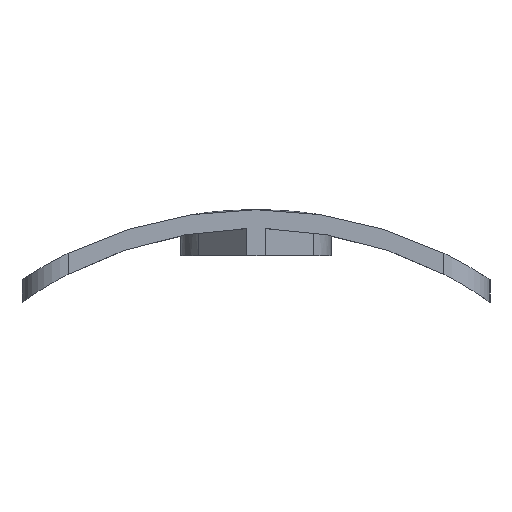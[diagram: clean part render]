
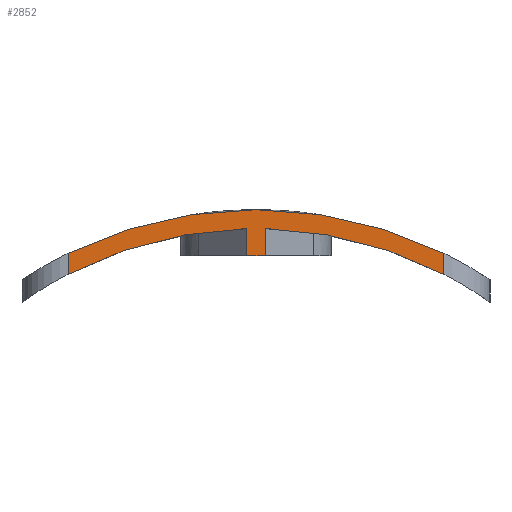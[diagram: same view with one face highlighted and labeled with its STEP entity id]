
A CAD part, left-side view. The second image highlights one B-rep face of the part: STEP entity #2852.
In plain terms, the highlighted planar face has unit normal (-1, 0, 0).
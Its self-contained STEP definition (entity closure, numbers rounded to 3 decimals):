
#22 = VERTEX_POINT('',#23);
#23 = CARTESIAN_POINT('',(96.3,11.,22.45));
#43 = CYLINDRICAL_SURFACE('',#44,25.);
#44 = AXIS2_PLACEMENT_3D('',#45,#46,#47);
#45 = CARTESIAN_POINT('',(95.,0.,0.));
#46 = DIRECTION('',(1.,0.,0.));
#47 = DIRECTION('',(-0.,0.,1.));
#66 = CYLINDRICAL_SURFACE('',#67,2.7);
#67 = AXIS2_PLACEMENT_3D('',#68,#69,#70);
#68 = CARTESIAN_POINT('',(99.,11.,5.));
#69 = DIRECTION('',(0.,0.,1.));
#70 = DIRECTION('',(-1.,-0.,0.));
#89 = EDGE_CURVE('',#22,#90,#92,.T.);
#90 = VERTEX_POINT('',#91);
#91 = CARTESIAN_POINT('',(96.3,-11.,22.45));
#92 = SURFACE_CURVE('',#93,(#98,#105),.PCURVE_S1.);
#93 = CIRCLE('',#94,25.);
#94 = AXIS2_PLACEMENT_3D('',#95,#96,#97);
#95 = CARTESIAN_POINT('',(96.3,0.,0.));
#96 = DIRECTION('',(1.,0.,0.));
#97 = DIRECTION('',(-0.,0.44,0.898));
#98 = PCURVE('',#43,#99);
#99 = DEFINITIONAL_REPRESENTATION('',(#100),#104);
#100 = LINE('',#101,#102);
#101 = CARTESIAN_POINT('',(5.828,1.3));
#102 = VECTOR('',#103,1.);
#103 = DIRECTION('',(1.,0.));
#104 = ( GEOMETRIC_REPRESENTATION_CONTEXT(2) 
PARAMETRIC_REPRESENTATION_CONTEXT() REPRESENTATION_CONTEXT('2D SPACE',''
  ) );
#105 = PCURVE('',#106,#111);
#106 = PLANE('',#107);
#107 = AXIS2_PLACEMENT_3D('',#108,#109,#110);
#108 = CARTESIAN_POINT('',(96.3,-13.7,5.));
#109 = DIRECTION('',(1.,0.,0.));
#110 = DIRECTION('',(0.,0.,1.));
#111 = DEFINITIONAL_REPRESENTATION('',(#112),#116);
#112 = CIRCLE('',#113,25.);
#113 = AXIS2_PLACEMENT_2D('',#114,#115);
#114 = CARTESIAN_POINT('',(-5.,-13.7));
#115 = DIRECTION('',(0.898,-0.44));
#116 = ( GEOMETRIC_REPRESENTATION_CONTEXT(2) 
PARAMETRIC_REPRESENTATION_CONTEXT() REPRESENTATION_CONTEXT('2D SPACE',''
  ) );
#156 = CYLINDRICAL_SURFACE('',#157,2.7);
#157 = AXIS2_PLACEMENT_3D('',#158,#159,#160);
#158 = CARTESIAN_POINT('',(99.,-11.,5.));
#159 = DIRECTION('',(0.,0.,1.));
#160 = DIRECTION('',(-1.,-0.,0.));
#1158 = PLANE('',#1159);
#1159 = AXIS2_PLACEMENT_3D('',#1160,#1161,#1162);
#1160 = CARTESIAN_POINT('',(102.5,0.,22.3));
#1161 = DIRECTION('',(0.,0.,1.));
#1162 = DIRECTION('',(1.,0.,-0.));
#1206 = VERTEX_POINT('',#1207);
#1207 = CARTESIAN_POINT('',(96.3,0.541,22.3));
#1221 = PLANE('',#1222);
#1222 = AXIS2_PLACEMENT_3D('',#1223,#1224,#1225);
#1223 = CARTESIAN_POINT('',(95.655,0.,22.3));
#1224 = DIRECTION('',(-0.643,0.766,0.));
#1225 = DIRECTION('',(0.766,0.643,0.));
#1233 = EDGE_CURVE('',#1206,#1234,#1236,.T.);
#1234 = VERTEX_POINT('',#1235);
#1235 = CARTESIAN_POINT('',(96.3,-0.541,22.3));
#1236 = SURFACE_CURVE('',#1237,(#1241,#1248),.PCURVE_S1.);
#1237 = LINE('',#1238,#1239);
#1238 = CARTESIAN_POINT('',(96.3,-10.,22.3));
#1239 = VECTOR('',#1240,1.);
#1240 = DIRECTION('',(0.,-1.,0.));
#1241 = PCURVE('',#1158,#1242);
#1242 = DEFINITIONAL_REPRESENTATION('',(#1243),#1247);
#1243 = LINE('',#1244,#1245);
#1244 = CARTESIAN_POINT('',(-6.2,-10.));
#1245 = VECTOR('',#1246,1.);
#1246 = DIRECTION('',(0.,-1.));
#1247 = ( GEOMETRIC_REPRESENTATION_CONTEXT(2) 
PARAMETRIC_REPRESENTATION_CONTEXT() REPRESENTATION_CONTEXT('2D SPACE',''
  ) );
#1248 = PCURVE('',#106,#1249);
#1249 = DEFINITIONAL_REPRESENTATION('',(#1250),#1254);
#1250 = LINE('',#1251,#1252);
#1251 = CARTESIAN_POINT('',(17.3,-3.7));
#1252 = VECTOR('',#1253,1.);
#1253 = DIRECTION('',(0.,1.));
#1254 = ( GEOMETRIC_REPRESENTATION_CONTEXT(2) 
PARAMETRIC_REPRESENTATION_CONTEXT() REPRESENTATION_CONTEXT('2D SPACE',''
  ) );
#1270 = PLANE('',#1271);
#1271 = AXIS2_PLACEMENT_3D('',#1272,#1273,#1274);
#1272 = CARTESIAN_POINT('',(99.672,-3.371,22.3));
#1273 = DIRECTION('',(-0.643,-0.766,0.));
#1274 = DIRECTION('',(-0.766,0.643,0.));
#1312 = VERTEX_POINT('',#1313);
#1313 = CARTESIAN_POINT('',(96.3,-0.541,23.894));
#1328 = CYLINDRICAL_SURFACE('',#1329,23.9);
#1329 = AXIS2_PLACEMENT_3D('',#1330,#1331,#1332);
#1330 = CARTESIAN_POINT('',(94.,0.,0.));
#1331 = DIRECTION('',(1.,0.,0.));
#1332 = DIRECTION('',(-0.,0.,1.));
#1343 = EDGE_CURVE('',#1234,#1312,#1344,.T.);
#1344 = SURFACE_CURVE('',#1345,(#1349,#1355),.PCURVE_S1.);
#1345 = LINE('',#1346,#1347);
#1346 = CARTESIAN_POINT('',(96.3,-0.541,11.15));
#1347 = VECTOR('',#1348,1.);
#1348 = DIRECTION('',(0.,0.,1.));
#1349 = PCURVE('',#1270,#1350);
#1350 = DEFINITIONAL_REPRESENTATION('',(#1351),#1354);
#1351 = B_SPLINE_CURVE_WITH_KNOTS('',1,(#1352,#1353),.UNSPECIFIED.,.F.,
  .F.,(2,2),(11.15,13.05),.PIECEWISE_BEZIER_KNOTS.);
#1352 = CARTESIAN_POINT('',(4.401,0.));
#1353 = CARTESIAN_POINT('',(4.401,-1.9));
#1354 = ( GEOMETRIC_REPRESENTATION_CONTEXT(2) 
PARAMETRIC_REPRESENTATION_CONTEXT() REPRESENTATION_CONTEXT('2D SPACE',''
  ) );
#1355 = PCURVE('',#106,#1356);
#1356 = DEFINITIONAL_REPRESENTATION('',(#1357),#1361);
#1357 = LINE('',#1358,#1359);
#1358 = CARTESIAN_POINT('',(6.15,-13.159));
#1359 = VECTOR('',#1360,1.);
#1360 = DIRECTION('',(1.,0.));
#1361 = ( GEOMETRIC_REPRESENTATION_CONTEXT(2) 
PARAMETRIC_REPRESENTATION_CONTEXT() REPRESENTATION_CONTEXT('2D SPACE',''
  ) );
#1625 = EDGE_CURVE('',#1312,#1626,#1628,.T.);
#1626 = VERTEX_POINT('',#1627);
#1627 = CARTESIAN_POINT('',(96.3,-11.,21.218));
#1628 = SURFACE_CURVE('',#1629,(#1634,#1640),.PCURVE_S1.);
#1629 = CIRCLE('',#1630,23.9);
#1630 = AXIS2_PLACEMENT_3D('',#1631,#1632,#1633);
#1631 = CARTESIAN_POINT('',(96.3,0.,0.));
#1632 = DIRECTION('',(1.,0.,0.));
#1633 = DIRECTION('',(-0.,0.,1.));
#1634 = PCURVE('',#1328,#1635);
#1635 = DEFINITIONAL_REPRESENTATION('',(#1636),#1639);
#1636 = B_SPLINE_CURVE_WITH_KNOTS('',1,(#1637,#1638),.UNSPECIFIED.,.F.,
  .F.,(2,2),(0.023,0.478),
  .PIECEWISE_BEZIER_KNOTS.);
#1637 = CARTESIAN_POINT('',(6.306,2.3));
#1638 = CARTESIAN_POINT('',(6.761,2.3));
#1639 = ( GEOMETRIC_REPRESENTATION_CONTEXT(2) 
PARAMETRIC_REPRESENTATION_CONTEXT() REPRESENTATION_CONTEXT('2D SPACE',''
  ) );
#1640 = PCURVE('',#106,#1641);
#1641 = DEFINITIONAL_REPRESENTATION('',(#1642),#1646);
#1642 = CIRCLE('',#1643,23.9);
#1643 = AXIS2_PLACEMENT_2D('',#1644,#1645);
#1644 = CARTESIAN_POINT('',(-5.,-13.7));
#1645 = DIRECTION('',(1.,0.));
#1646 = ( GEOMETRIC_REPRESENTATION_CONTEXT(2) 
PARAMETRIC_REPRESENTATION_CONTEXT() REPRESENTATION_CONTEXT('2D SPACE',''
  ) );
#1887 = VERTEX_POINT('',#1888);
#1888 = CARTESIAN_POINT('',(96.3,11.,21.218));
#1942 = EDGE_CURVE('',#1887,#1943,#1945,.T.);
#1943 = VERTEX_POINT('',#1944);
#1944 = CARTESIAN_POINT('',(96.3,0.541,23.894));
#1945 = SURFACE_CURVE('',#1946,(#1951,#1957),.PCURVE_S1.);
#1946 = CIRCLE('',#1947,23.9);
#1947 = AXIS2_PLACEMENT_3D('',#1948,#1949,#1950);
#1948 = CARTESIAN_POINT('',(96.3,0.,0.));
#1949 = DIRECTION('',(1.,0.,0.));
#1950 = DIRECTION('',(-0.,0.,1.));
#1951 = PCURVE('',#1328,#1952);
#1952 = DEFINITIONAL_REPRESENTATION('',(#1953),#1956);
#1953 = B_SPLINE_CURVE_WITH_KNOTS('',1,(#1954,#1955),.UNSPECIFIED.,.F.,
  .F.,(2,2),(5.805,6.261),.PIECEWISE_BEZIER_KNOTS.);
#1954 = CARTESIAN_POINT('',(5.805,2.3));
#1955 = CARTESIAN_POINT('',(6.261,2.3));
#1956 = ( GEOMETRIC_REPRESENTATION_CONTEXT(2) 
PARAMETRIC_REPRESENTATION_CONTEXT() REPRESENTATION_CONTEXT('2D SPACE',''
  ) );
#1957 = PCURVE('',#106,#1958);
#1958 = DEFINITIONAL_REPRESENTATION('',(#1959),#1963);
#1959 = CIRCLE('',#1960,23.9);
#1960 = AXIS2_PLACEMENT_2D('',#1961,#1962);
#1961 = CARTESIAN_POINT('',(-5.,-13.7));
#1962 = DIRECTION('',(1.,0.));
#1963 = ( GEOMETRIC_REPRESENTATION_CONTEXT(2) 
PARAMETRIC_REPRESENTATION_CONTEXT() REPRESENTATION_CONTEXT('2D SPACE',''
  ) );
#2596 = EDGE_CURVE('',#1943,#1206,#2597,.T.);
#2597 = SURFACE_CURVE('',#2598,(#2602,#2608),.PCURVE_S1.);
#2598 = LINE('',#2599,#2600);
#2599 = CARTESIAN_POINT('',(96.3,0.541,11.15));
#2600 = VECTOR('',#2601,1.);
#2601 = DIRECTION('',(-0.,0.,-1.));
#2602 = PCURVE('',#1221,#2603);
#2603 = DEFINITIONAL_REPRESENTATION('',(#2604),#2607);
#2604 = B_SPLINE_CURVE_WITH_KNOTS('',1,(#2605,#2606),.UNSPECIFIED.,.F.,
  .F.,(2,2),(-13.05,-11.15),.PIECEWISE_BEZIER_KNOTS.);
#2605 = CARTESIAN_POINT('',(0.842,-1.9));
#2606 = CARTESIAN_POINT('',(0.842,0.));
#2607 = ( GEOMETRIC_REPRESENTATION_CONTEXT(2) 
PARAMETRIC_REPRESENTATION_CONTEXT() REPRESENTATION_CONTEXT('2D SPACE',''
  ) );
#2608 = PCURVE('',#106,#2609);
#2609 = DEFINITIONAL_REPRESENTATION('',(#2610),#2614);
#2610 = LINE('',#2611,#2612);
#2611 = CARTESIAN_POINT('',(6.15,-14.241));
#2612 = VECTOR('',#2613,1.);
#2613 = DIRECTION('',(-1.,-0.));
#2614 = ( GEOMETRIC_REPRESENTATION_CONTEXT(2) 
PARAMETRIC_REPRESENTATION_CONTEXT() REPRESENTATION_CONTEXT('2D SPACE',''
  ) );
#2829 = EDGE_CURVE('',#1626,#90,#2830,.T.);
#2830 = SURFACE_CURVE('',#2831,(#2835,#2842),.PCURVE_S1.);
#2831 = LINE('',#2832,#2833);
#2832 = CARTESIAN_POINT('',(96.3,-11.,5.));
#2833 = VECTOR('',#2834,1.);
#2834 = DIRECTION('',(0.,0.,1.));
#2835 = PCURVE('',#156,#2836);
#2836 = DEFINITIONAL_REPRESENTATION('',(#2837),#2841);
#2837 = LINE('',#2838,#2839);
#2838 = CARTESIAN_POINT('',(0.,0.));
#2839 = VECTOR('',#2840,1.);
#2840 = DIRECTION('',(0.,1.));
#2841 = ( GEOMETRIC_REPRESENTATION_CONTEXT(2) 
PARAMETRIC_REPRESENTATION_CONTEXT() REPRESENTATION_CONTEXT('2D SPACE',''
  ) );
#2842 = PCURVE('',#106,#2843);
#2843 = DEFINITIONAL_REPRESENTATION('',(#2844),#2848);
#2844 = LINE('',#2845,#2846);
#2845 = CARTESIAN_POINT('',(0.,-2.7));
#2846 = VECTOR('',#2847,1.);
#2847 = DIRECTION('',(1.,0.));
#2848 = ( GEOMETRIC_REPRESENTATION_CONTEXT(2) 
PARAMETRIC_REPRESENTATION_CONTEXT() REPRESENTATION_CONTEXT('2D SPACE',''
  ) );
#2852 = ADVANCED_FACE('',(#2853),#106,.F.);
#2853 = FACE_BOUND('',#2854,.F.);
#2854 = EDGE_LOOP('',(#2855,#2876,#2877,#2878,#2879,#2880,#2881,#2882));
#2855 = ORIENTED_EDGE('',*,*,#2856,.T.);
#2856 = EDGE_CURVE('',#1887,#22,#2857,.T.);
#2857 = SURFACE_CURVE('',#2858,(#2862,#2869),.PCURVE_S1.);
#2858 = LINE('',#2859,#2860);
#2859 = CARTESIAN_POINT('',(96.3,11.,5.));
#2860 = VECTOR('',#2861,1.);
#2861 = DIRECTION('',(0.,0.,1.));
#2862 = PCURVE('',#106,#2863);
#2863 = DEFINITIONAL_REPRESENTATION('',(#2864),#2868);
#2864 = LINE('',#2865,#2866);
#2865 = CARTESIAN_POINT('',(0.,-24.7));
#2866 = VECTOR('',#2867,1.);
#2867 = DIRECTION('',(1.,0.));
#2868 = ( GEOMETRIC_REPRESENTATION_CONTEXT(2) 
PARAMETRIC_REPRESENTATION_CONTEXT() REPRESENTATION_CONTEXT('2D SPACE',''
  ) );
#2869 = PCURVE('',#66,#2870);
#2870 = DEFINITIONAL_REPRESENTATION('',(#2871),#2875);
#2871 = LINE('',#2872,#2873);
#2872 = CARTESIAN_POINT('',(-0.,0.));
#2873 = VECTOR('',#2874,1.);
#2874 = DIRECTION('',(-0.,1.));
#2875 = ( GEOMETRIC_REPRESENTATION_CONTEXT(2) 
PARAMETRIC_REPRESENTATION_CONTEXT() REPRESENTATION_CONTEXT('2D SPACE',''
  ) );
#2876 = ORIENTED_EDGE('',*,*,#89,.T.);
#2877 = ORIENTED_EDGE('',*,*,#2829,.F.);
#2878 = ORIENTED_EDGE('',*,*,#1625,.F.);
#2879 = ORIENTED_EDGE('',*,*,#1343,.F.);
#2880 = ORIENTED_EDGE('',*,*,#1233,.F.);
#2881 = ORIENTED_EDGE('',*,*,#2596,.F.);
#2882 = ORIENTED_EDGE('',*,*,#1942,.F.);
